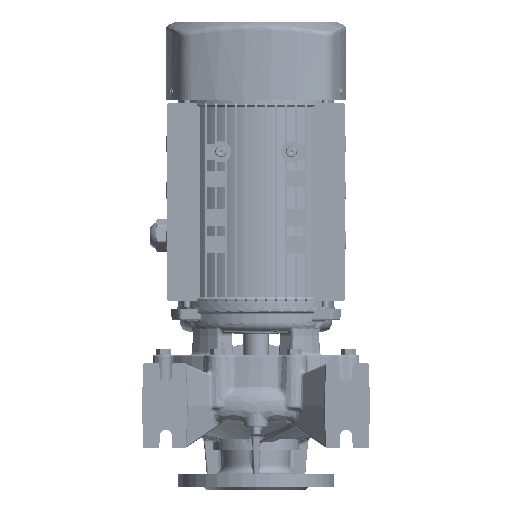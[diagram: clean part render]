
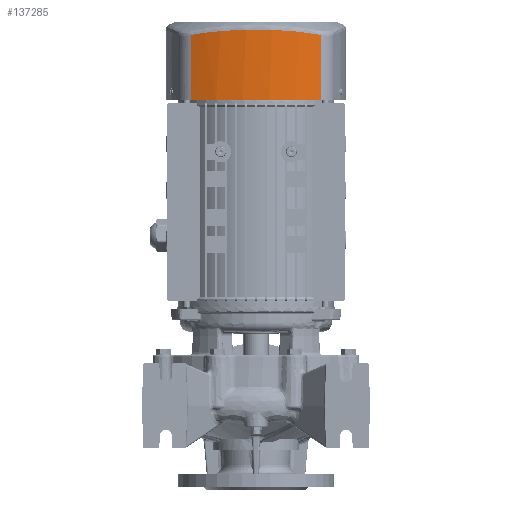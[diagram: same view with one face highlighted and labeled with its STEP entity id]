
A CAD part, front view. The second image highlights one B-rep face of the part: STEP entity #137285.
In plain terms, the highlighted cylindrical face has radius 199 mm (diameter 398 mm), a partial arc.
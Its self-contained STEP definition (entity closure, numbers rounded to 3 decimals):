
#3234 = VERTEX_POINT ( 'NONE', #178824 ) ;
#6197 = CARTESIAN_POINT ( 'NONE',  ( 52.746, -100.738, 327.259 ) ) ;
#19118 = ORIENTED_EDGE ( 'NONE', *, *, #177959, .T. ) ;
#21176 = DIRECTION ( 'NONE',  ( 0., 0., 1. ) ) ;
#24042 = VERTEX_POINT ( 'NONE', #173976 ) ;
#27989 = CARTESIAN_POINT ( 'NONE',  ( 0., 91.606, 245.9 ) ) ;
#28116 = CARTESIAN_POINT ( 'NONE',  ( 77.792, -91.559, 323.432 ) ) ;
#31575 = B_SPLINE_CURVE_WITH_KNOTS ( 'NONE', 3,
 ( #84867, #113151, #6197, #111155, #190910, #158617, #146434, #187947, #34476, #81886 ),
 .UNSPECIFIED., .F., .F.,
 ( 4, 2, 2, 2, 4 ),
 ( 0., 0.25, 0.5, 0.75, 1. ),
 .UNSPECIFIED. ) ;
#34444 = ORIENTED_EDGE ( 'NONE', *, *, #85136, .F. ) ;
#34476 = CARTESIAN_POINT ( 'NONE',  ( -65.531, -96.766, 325.619 ) ) ;
#34766 = CARTESIAN_POINT ( 'NONE',  ( -77.792, -91.559, 271.744 ) ) ;
#36831 = VERTEX_POINT ( 'NONE', #182349 ) ;
#43146 = DIRECTION ( 'NONE',  ( 0., -1., 0. ) ) ;
#53131 = CIRCLE ( 'NONE', #191778, 199. ) ;
#54444 = CYLINDRICAL_SURFACE ( 'NONE', #162468, 199. ) ;
#69612 = FACE_OUTER_BOUND ( 'NONE', #129331, .T. ) ;
#70501 = ORIENTED_EDGE ( 'NONE', *, *, #71700, .F. ) ;
#71700 = EDGE_CURVE ( 'NONE', #36831, #24042, #53131, .T. ) ;
#75678 = EDGE_CURVE ( 'NONE', #36831, #3234, #162313, .T. ) ;
#81886 = CARTESIAN_POINT ( 'NONE',  ( -77.792, -91.559, 323.432 ) ) ;
#83734 = CARTESIAN_POINT ( 'NONE',  ( 0., 91.606, 245.9 ) ) ;
#84867 = CARTESIAN_POINT ( 'NONE',  ( 77.792, -91.559, 323.432 ) ) ;
#85136 = EDGE_CURVE ( 'NONE', #24042, #166303, #101592, .T. ) ;
#90540 = DIRECTION ( 'NONE',  ( 0., 0., -1. ) ) ;
#97305 = CARTESIAN_POINT ( 'NONE',  ( -77.792, -91.559, 323.432 ) ) ;
#101592 = B_SPLINE_CURVE_WITH_KNOTS ( 'NONE', 3,
 ( #173049, #34766, #174045, #97305 ),
 .UNSPECIFIED., .F., .F.,
 ( 4, 4 ),
 ( 0., 1. ),
 .UNSPECIFIED. ) ;
#111155 = CARTESIAN_POINT ( 'NONE',  ( 26.641, -106.052, 329.446 ) ) ;
#113151 = CARTESIAN_POINT ( 'NONE',  ( 65.531, -96.766, 325.619 ) ) ;
#119994 = CARTESIAN_POINT ( 'NONE',  ( 77.792, -91.559, 271.744 ) ) ;
#120972 = CARTESIAN_POINT ( 'NONE',  ( 77.792, -91.559, 245.9 ) ) ;
#129331 = EDGE_LOOP ( 'NONE', ( #34444, #70501, #135854, #19118 ) ) ;
#135854 = ORIENTED_EDGE ( 'NONE', *, *, #75678, .T. ) ;
#137285 = ADVANCED_FACE ( 'NONE', ( #69612 ), #54444, .T. ) ;
#146434 = CARTESIAN_POINT ( 'NONE',  ( -26.641, -106.052, 329.446 ) ) ;
#158617 = CARTESIAN_POINT ( 'NONE',  ( -13.321, -107.394, 329.993 ) ) ;
#158620 = CARTESIAN_POINT ( 'NONE',  ( -77.792, -91.559, 323.432 ) ) ;
#162313 = B_SPLINE_CURVE_WITH_KNOTS ( 'NONE', 3,
 ( #120972, #119994, #181603, #28116 ),
 .UNSPECIFIED., .F., .F.,
 ( 4, 4 ),
 ( 0., 1. ),
 .UNSPECIFIED. ) ;
#162468 = AXIS2_PLACEMENT_3D ( 'NONE', #83734, #21176, #178607 ) ;
#166303 = VERTEX_POINT ( 'NONE', #158620 ) ;
#173049 = CARTESIAN_POINT ( 'NONE',  ( -77.792, -91.559, 245.9 ) ) ;
#173976 = CARTESIAN_POINT ( 'NONE',  ( -77.792, -91.559, 245.9 ) ) ;
#174045 = CARTESIAN_POINT ( 'NONE',  ( -77.792, -91.559, 297.588 ) ) ;
#177959 = EDGE_CURVE ( 'NONE', #3234, #166303, #31575, .T. ) ;
#178607 = DIRECTION ( 'NONE',  ( 1., 0., 0. ) ) ;
#178824 = CARTESIAN_POINT ( 'NONE',  ( 77.792, -91.559, 323.432 ) ) ;
#181603 = CARTESIAN_POINT ( 'NONE',  ( 77.792, -91.559, 297.588 ) ) ;
#182349 = CARTESIAN_POINT ( 'NONE',  ( 77.792, -91.559, 245.9 ) ) ;
#187947 = CARTESIAN_POINT ( 'NONE',  ( -52.746, -100.738, 327.259 ) ) ;
#190910 = CARTESIAN_POINT ( 'NONE',  ( 13.321, -107.394, 329.993 ) ) ;
#191778 = AXIS2_PLACEMENT_3D ( 'NONE', #27989, #90540, #43146 ) ;
